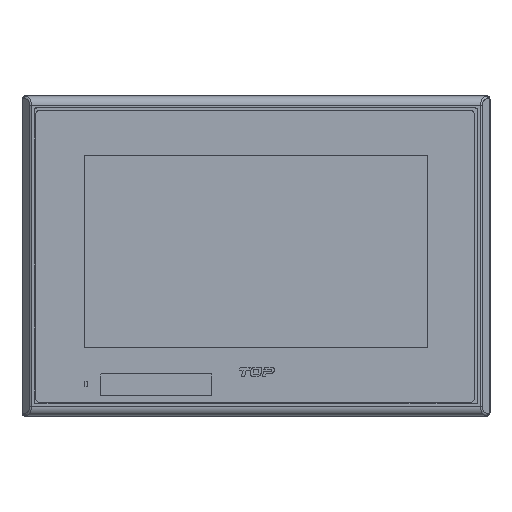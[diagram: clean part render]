
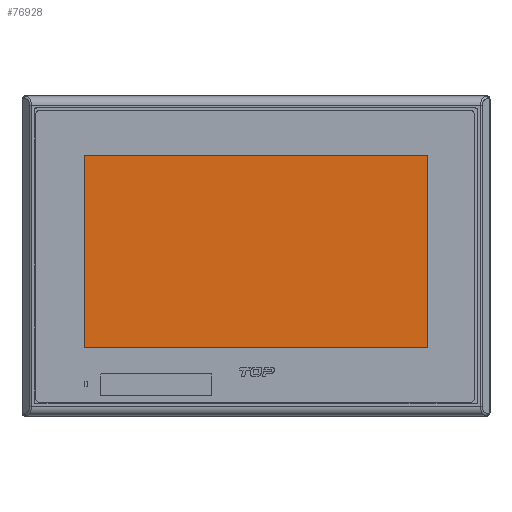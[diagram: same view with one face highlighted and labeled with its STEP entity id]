
A CAD part, top view. The second image highlights one B-rep face of the part: STEP entity #76928.
In plain terms, the highlighted planar face has unit normal (0, 0, 1).
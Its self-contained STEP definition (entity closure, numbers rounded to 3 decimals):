
#12348=DIRECTION('',(0.,1.,0.));
#12349=VECTOR('',#12348,87.);
#12350=CARTESIAN_POINT('',(-77.75,-40.,-0.2));
#12351=LINE('',#12350,#12349);
#12352=DIRECTION('',(1.,0.,0.));
#12353=VECTOR('',#12352,155.5);
#12354=CARTESIAN_POINT('',(-77.75,47.,-0.2));
#12355=LINE('',#12354,#12353);
#12356=DIRECTION('',(0.,-1.,0.));
#12357=VECTOR('',#12356,87.);
#12358=CARTESIAN_POINT('',(77.75,47.,-0.2));
#12359=LINE('',#12358,#12357);
#12360=DIRECTION('',(-1.,0.,0.));
#12361=VECTOR('',#12360,155.5);
#12362=CARTESIAN_POINT('',(77.75,-40.,-0.2));
#12363=LINE('',#12362,#12361);
#57388=CARTESIAN_POINT('',(-77.75,-40.,-0.2));
#57389=CARTESIAN_POINT('',(-77.75,47.,-0.2));
#57390=VERTEX_POINT('',#57388);
#57391=VERTEX_POINT('',#57389);
#57392=CARTESIAN_POINT('',(77.75,47.,-0.2));
#57393=VERTEX_POINT('',#57392);
#57394=CARTESIAN_POINT('',(77.75,-40.,-0.2));
#57395=VERTEX_POINT('',#57394);
#76914=CARTESIAN_POINT('',(0.,0.,-0.2));
#76915=DIRECTION('',(0.,0.,-1.));
#76916=DIRECTION('',(-1.,0.,0.));
#76917=AXIS2_PLACEMENT_3D('',#76914,#76915,#76916);
#76918=PLANE('',#76917);
#76919=ORIENTED_EDGE('',*,*,#76904,.T.);
#76921=ORIENTED_EDGE('',*,*,#76920,.T.);
#76923=ORIENTED_EDGE('',*,*,#76922,.T.);
#76925=ORIENTED_EDGE('',*,*,#76924,.T.);
#76926=EDGE_LOOP('',(#76919,#76921,#76923,#76925));
#76927=FACE_OUTER_BOUND('',#76926,.F.);
#76928=ADVANCED_FACE('',(#76927),#76918,.F.);
#76904=EDGE_CURVE('',#57390,#57391,#12351,.T.);
#76920=EDGE_CURVE('',#57391,#57393,#12355,.T.);
#76922=EDGE_CURVE('',#57393,#57395,#12359,.T.);
#76924=EDGE_CURVE('',#57395,#57390,#12363,.T.);
